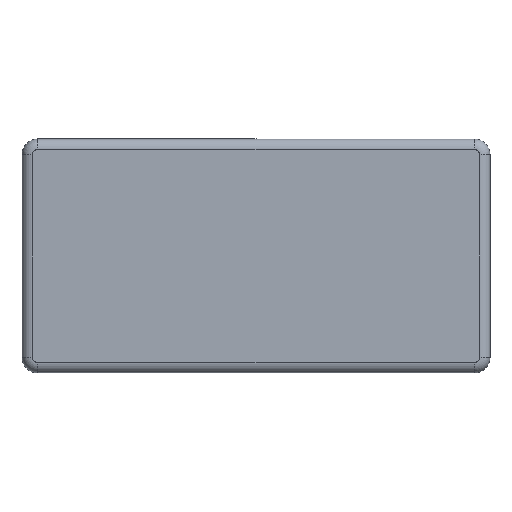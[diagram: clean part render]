
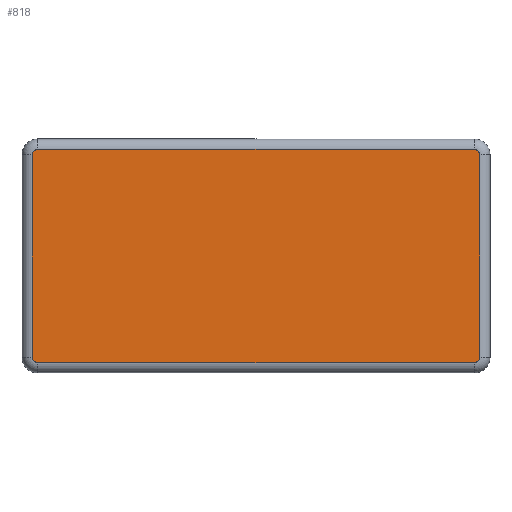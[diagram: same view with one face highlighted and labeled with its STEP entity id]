
A CAD part, front view. The second image highlights one B-rep face of the part: STEP entity #818.
In plain terms, the highlighted planar face has unit normal (0, -1, 0).
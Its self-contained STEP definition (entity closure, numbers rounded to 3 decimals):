
#15 = VERTEX_POINT ( 'NONE', #124 ) ;
#19 = VECTOR ( 'NONE', #263, 1000. ) ;
#32 = DIRECTION ( 'NONE',  ( 0., 0., 1. ) ) ;
#36 = EDGE_CURVE ( 'NONE', #224, #15, #112, .T. ) ;
#41 = ORIENTED_EDGE ( 'NONE', *, *, #393, .T. ) ;
#46 = VERTEX_POINT ( 'NONE', #543 ) ;
#74 = CARTESIAN_POINT ( 'NONE',  ( 42., -4., -19.5 ) ) ;
#97 = CARTESIAN_POINT ( 'NONE',  ( 43., -4., 19.5 ) ) ;
#102 = EDGE_CURVE ( 'NONE', #46, #629, #1162, .T. ) ;
#112 = LINE ( 'NONE', #981, #1220 ) ;
#124 = CARTESIAN_POINT ( 'NONE',  ( -42., -4., 20.5 ) ) ;
#128 = AXIS2_PLACEMENT_3D ( 'NONE', #1052, #410, #1163 ) ;
#172 = FACE_OUTER_BOUND ( 'NONE', #641, .T. ) ;
#180 = DIRECTION ( 'NONE',  ( 0., 0., 1. ) ) ;
#186 = CARTESIAN_POINT ( 'NONE',  ( -42., -4., -19.5 ) ) ;
#195 = AXIS2_PLACEMENT_3D ( 'NONE', #74, #853, #180 ) ;
#224 = VERTEX_POINT ( 'NONE', #619 ) ;
#238 = EDGE_CURVE ( 'NONE', #629, #788, #966, .T. ) ;
#240 = CIRCLE ( 'NONE', #1179, 1. ) ;
#247 = EDGE_CURVE ( 'NONE', #15, #267, #1236, .T. ) ;
#263 = DIRECTION ( 'NONE',  ( 0., 0., -1. ) ) ;
#265 = DIRECTION ( 'NONE',  ( 0., 0., 1. ) ) ;
#267 = VERTEX_POINT ( 'NONE', #1110 ) ;
#299 = VECTOR ( 'NONE', #1009, 1000. ) ;
#303 = DIRECTION ( 'NONE',  ( 0., 0., 1. ) ) ;
#309 = CARTESIAN_POINT ( 'NONE',  ( 42., -4., 19.5 ) ) ;
#320 = AXIS2_PLACEMENT_3D ( 'NONE', #1233, #932, #265 ) ;
#366 = ORIENTED_EDGE ( 'NONE', *, *, #471, .T. ) ;
#374 = PLANE ( 'NONE',  #320 ) ;
#393 = EDGE_CURVE ( 'NONE', #788, #666, #1087, .T. ) ;
#410 = DIRECTION ( 'NONE',  ( 0., -1., 0. ) ) ;
#417 = EDGE_CURVE ( 'NONE', #703, #46, #1297, .T. ) ;
#425 = DIRECTION ( 'NONE',  ( 0., 0., 1. ) ) ;
#431 = CARTESIAN_POINT ( 'NONE',  ( -43., -4., -19.5 ) ) ;
#471 = EDGE_CURVE ( 'NONE', #666, #224, #240, .T. ) ;
#543 = CARTESIAN_POINT ( 'NONE',  ( -42., -4., -20.5 ) ) ;
#587 = CARTESIAN_POINT ( 'NONE',  ( 42., -4., -20.5 ) ) ;
#619 = CARTESIAN_POINT ( 'NONE',  ( 42., -4., 20.5 ) ) ;
#629 = VERTEX_POINT ( 'NONE', #1071 ) ;
#641 = EDGE_LOOP ( 'NONE', ( #1068, #765, #884, #1300, #41, #366, #909, #669 ) ) ;
#666 = VERTEX_POINT ( 'NONE', #97 ) ;
#669 = ORIENTED_EDGE ( 'NONE', *, *, #247, .T. ) ;
#694 = CARTESIAN_POINT ( 'NONE',  ( 43., -4., 19.5 ) ) ;
#703 = VERTEX_POINT ( 'NONE', #431 ) ;
#708 = EDGE_CURVE ( 'NONE', #267, #703, #878, .T. ) ;
#765 = ORIENTED_EDGE ( 'NONE', *, *, #417, .T. ) ;
#788 = VERTEX_POINT ( 'NONE', #1132 ) ;
#818 = ADVANCED_FACE ( 'NONE', ( #172 ), #374, .F. ) ;
#820 = CARTESIAN_POINT ( 'NONE',  ( -43., -4., -19.5 ) ) ;
#853 = DIRECTION ( 'NONE',  ( 0., -1., 0. ) ) ;
#876 = DIRECTION ( 'NONE',  ( -1., 0., 0. ) ) ;
#878 = LINE ( 'NONE', #820, #19 ) ;
#884 = ORIENTED_EDGE ( 'NONE', *, *, #102, .T. ) ;
#909 = ORIENTED_EDGE ( 'NONE', *, *, #36, .T. ) ;
#932 = DIRECTION ( 'NONE',  ( 0., 1., 0. ) ) ;
#961 = DIRECTION ( 'NONE',  ( 0., -1., 0. ) ) ;
#966 = CIRCLE ( 'NONE', #195, 1. ) ;
#981 = CARTESIAN_POINT ( 'NONE',  ( -42., -4., 20.5 ) ) ;
#1009 = DIRECTION ( 'NONE',  ( 1., 0., 0. ) ) ;
#1052 = CARTESIAN_POINT ( 'NONE',  ( -42., -4., 19.5 ) ) ;
#1066 = DIRECTION ( 'NONE',  ( 0., -1., 0. ) ) ;
#1068 = ORIENTED_EDGE ( 'NONE', *, *, #708, .T. ) ;
#1071 = CARTESIAN_POINT ( 'NONE',  ( 42., -4., -20.5 ) ) ;
#1087 = LINE ( 'NONE', #694, #1327 ) ;
#1098 = AXIS2_PLACEMENT_3D ( 'NONE', #186, #961, #303 ) ;
#1110 = CARTESIAN_POINT ( 'NONE',  ( -43., -4., 19.5 ) ) ;
#1132 = CARTESIAN_POINT ( 'NONE',  ( 43., -4., -19.5 ) ) ;
#1162 = LINE ( 'NONE', #587, #299 ) ;
#1163 = DIRECTION ( 'NONE',  ( 0., 0., 1. ) ) ;
#1179 = AXIS2_PLACEMENT_3D ( 'NONE', #309, #1066, #425 ) ;
#1220 = VECTOR ( 'NONE', #876, 1000. ) ;
#1233 = CARTESIAN_POINT ( 'NONE',  ( 0., -4., 0. ) ) ;
#1236 = CIRCLE ( 'NONE', #128, 1. ) ;
#1297 = CIRCLE ( 'NONE', #1098, 1. ) ;
#1300 = ORIENTED_EDGE ( 'NONE', *, *, #238, .T. ) ;
#1327 = VECTOR ( 'NONE', #32, 1000. ) ;
